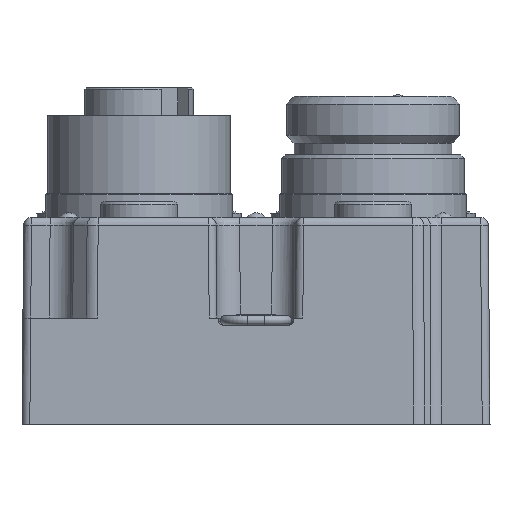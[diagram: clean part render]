
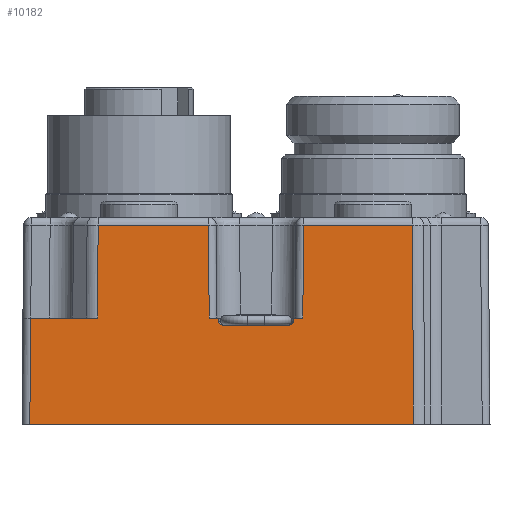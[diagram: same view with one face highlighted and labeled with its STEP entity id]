
A CAD part, left-side view. The second image highlights one B-rep face of the part: STEP entity #10182.
In plain terms, the highlighted planar face has unit normal (-1, 0, 0.009).
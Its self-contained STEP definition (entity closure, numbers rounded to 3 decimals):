
#6373=CARTESIAN_POINT('',(-63.,29.,-25.0));
#6374=VERTEX_POINT('',#6373);
#6382=CARTESIAN_POINT('',(-62.881,28.881,-11.4));
#6383=VERTEX_POINT('',#6382);
#6384=CARTESIAN_POINT('',(-63.,29.,-25.0));
#6385=DIRECTION('',(0.009,-0.009,1.));
#6386=VECTOR('',#6385,13.601);
#6387=LINE('',#6384,#6386);
#6388=EDGE_CURVE('',#6374,#6383,#6387,.T.);
#6946=CARTESIAN_POINT('',(-62.777,20.247,0.509));
#6947=VERTEX_POINT('',#6946);
#6956=CARTESIAN_POINT('',(-62.881,20.29,-11.4));
#6957=VERTEX_POINT('',#6956);
#6965=CARTESIAN_POINT('',(-62.881,20.29,-11.4));
#6966=DIRECTION('',(0.009,-0.004,1.));
#6967=VECTOR('',#6966,11.909);
#6968=LINE('',#6965,#6967);
#6969=EDGE_CURVE('',#6957,#6947,#6968,.T.);
#7034=CARTESIAN_POINT('',(-62.777,6.104,0.509));
#7035=VERTEX_POINT('',#7034);
#7045=CARTESIAN_POINT('',(-62.881,6.,-11.4));
#7046=VERTEX_POINT('',#7045);
#7047=CARTESIAN_POINT('',(-62.777,6.104,0.509));
#7048=DIRECTION('',(-0.009,-0.009,-1.));
#7049=VECTOR('',#7048,11.91);
#7050=LINE('',#7047,#7049);
#7051=EDGE_CURVE('',#7035,#7046,#7050,.T.);
#7295=CARTESIAN_POINT('',(-62.777,-6.104,0.509));
#7296=VERTEX_POINT('',#7295);
#7305=CARTESIAN_POINT('',(-62.881,-6.,-11.4));
#7306=VERTEX_POINT('',#7305);
#7314=CARTESIAN_POINT('',(-62.881,-6.,-11.4));
#7315=DIRECTION('',(0.009,-0.009,1.));
#7316=VECTOR('',#7315,11.91);
#7317=LINE('',#7314,#7316);
#7318=EDGE_CURVE('',#7306,#7296,#7317,.T.);
#7328=CARTESIAN_POINT('',(-62.777,-20.079,0.509));
#7329=VERTEX_POINT('',#7328);
#7339=CARTESIAN_POINT('',(-63.,-20.172,-25.0));
#7340=VERTEX_POINT('',#7339);
#7341=CARTESIAN_POINT('',(-62.777,-20.079,0.509));
#7342=DIRECTION('',(-0.009,-0.004,-1.));
#7343=VECTOR('',#7342,25.51);
#7344=LINE('',#7341,#7343);
#7345=EDGE_CURVE('',#7329,#7340,#7344,.T.);
#7791=CARTESIAN_POINT('',(-62.777,20.247,0.509));
#7792=DIRECTION('',(0.0,-1.0,0.0));
#7793=VECTOR('',#7792,14.143);
#7794=LINE('',#7791,#7793);
#7795=EDGE_CURVE('',#6947,#7035,#7794,.T.);
#8017=CARTESIAN_POINT('',(-62.777,-6.104,0.509));
#8018=DIRECTION('',(0.0,-1.0,0.0));
#8019=VECTOR('',#8018,13.976);
#8020=LINE('',#8017,#8019);
#8021=EDGE_CURVE('',#7296,#7329,#8020,.T.);
#10043=CARTESIAN_POINT('',(-62.881,-4.8,-11.4));
#10044=VERTEX_POINT('',#10043);
#10051=CARTESIAN_POINT('',(-62.881,-4.8,-11.4));
#10052=DIRECTION('',(0.0,-1.0,0.0));
#10053=VECTOR('',#10052,1.2);
#10054=LINE('',#10051,#10053);
#10055=EDGE_CURVE('',#10044,#7306,#10054,.T.);
#10080=CARTESIAN_POINT('',(-62.881,4.8,-11.4));
#10081=VERTEX_POINT('',#10080);
#10082=CARTESIAN_POINT('',(-62.881,6.,-11.4));
#10083=DIRECTION('',(0.0,-1.0,0.0));
#10084=VECTOR('',#10083,1.2);
#10085=LINE('',#10082,#10084);
#10086=EDGE_CURVE('',#7046,#10081,#10085,.T.);
#10114=CARTESIAN_POINT('',(-62.782,30.0,-0.001));
#10115=DIRECTION('',(-1.,0.0,0.009));
#10116=DIRECTION('',(0.009,0.0,1.));
#10117=AXIS2_PLACEMENT_3D('',#10114,#10115,#10116);
#10118=PLANE('',#10117);
#10119=CARTESIAN_POINT('',(-62.885,-4.8,-11.8));
#10120=VERTEX_POINT('',#10119);
#10121=CARTESIAN_POINT('',(-62.881,-4.8,-11.4));
#10122=DIRECTION('',(-0.009,0.0,-1.));
#10123=VECTOR('',#10122,0.4);
#10124=LINE('',#10121,#10123);
#10125=EDGE_CURVE('',#10044,#10120,#10124,.T.);
#10126=ORIENTED_EDGE('',*,*,#10125,.T.);
#10127=CARTESIAN_POINT('',(-62.889,-4.3,-12.3));
#10128=VERTEX_POINT('',#10127);
#10129=CARTESIAN_POINT('',(-62.885,-4.3,-11.8));
#10130=DIRECTION('',(-1.,0.,0.009));
#10131=DIRECTION('',(-0.009,0.,-1.));
#10132=AXIS2_PLACEMENT_3D('',#10129,#10130,#10131);
#10133=ELLIPSE('',#10132,0.5,0.5);
#10134=EDGE_CURVE('',#10128,#10120,#10133,.T.);
#10135=ORIENTED_EDGE('',*,*,#10134,.F.);
#10136=CARTESIAN_POINT('',(-62.889,4.3,-12.3));
#10137=VERTEX_POINT('',#10136);
#10138=CARTESIAN_POINT('',(-62.889,-4.3,-12.3));
#10139=DIRECTION('',(0.0,1.0,0.0));
#10140=VECTOR('',#10139,8.6);
#10141=LINE('',#10138,#10140);
#10142=EDGE_CURVE('',#10128,#10137,#10141,.T.);
#10143=ORIENTED_EDGE('',*,*,#10142,.T.);
#10144=CARTESIAN_POINT('',(-62.885,4.8,-11.8));
#10145=VERTEX_POINT('',#10144);
#10146=CARTESIAN_POINT('',(-62.885,4.3,-11.8));
#10147=DIRECTION('',(-1.,0.,0.009));
#10148=DIRECTION('',(-0.009,0.,-1.));
#10149=AXIS2_PLACEMENT_3D('',#10146,#10147,#10148);
#10150=ELLIPSE('',#10149,0.5,0.5);
#10151=EDGE_CURVE('',#10145,#10137,#10150,.T.);
#10152=ORIENTED_EDGE('',*,*,#10151,.F.);
#10153=CARTESIAN_POINT('',(-62.885,4.8,-11.8));
#10154=DIRECTION('',(0.009,0.0,1.));
#10155=VECTOR('',#10154,0.4);
#10156=LINE('',#10153,#10155);
#10157=EDGE_CURVE('',#10145,#10081,#10156,.T.);
#10158=ORIENTED_EDGE('',*,*,#10157,.T.);
#10159=ORIENTED_EDGE('',*,*,#10086,.F.);
#10160=ORIENTED_EDGE('',*,*,#7051,.F.);
#10161=ORIENTED_EDGE('',*,*,#7795,.F.);
#10162=ORIENTED_EDGE('',*,*,#6969,.F.);
#10163=CARTESIAN_POINT('',(-62.881,28.881,-11.4));
#10164=DIRECTION('',(0.0,-1.0,0.0));
#10165=VECTOR('',#10164,8.591);
#10166=LINE('',#10163,#10165);
#10167=EDGE_CURVE('',#6383,#6957,#10166,.T.);
#10168=ORIENTED_EDGE('',*,*,#10167,.F.);
#10169=ORIENTED_EDGE('',*,*,#6388,.F.);
#10170=CARTESIAN_POINT('',(-63.,29.,-25.0));
#10171=DIRECTION('',(0.0,-1.0,0.0));
#10172=VECTOR('',#10171,49.172);
#10173=LINE('',#10170,#10172);
#10174=EDGE_CURVE('',#6374,#7340,#10173,.T.);
#10175=ORIENTED_EDGE('',*,*,#10174,.T.);
#10176=ORIENTED_EDGE('',*,*,#7345,.F.);
#10177=ORIENTED_EDGE('',*,*,#8021,.F.);
#10178=ORIENTED_EDGE('',*,*,#7318,.F.);
#10179=ORIENTED_EDGE('',*,*,#10055,.F.);
#10180=EDGE_LOOP('',(#10126,#10135,#10143,#10152,#10158,#10159,#10160,#10161,#10162,#10168,#10169,#10175,#10176,#10177,#10178,#10179));
#10181=FACE_OUTER_BOUND('',#10180,.T.);
#10182=ADVANCED_FACE('',(#10181),#10118,.T.);
